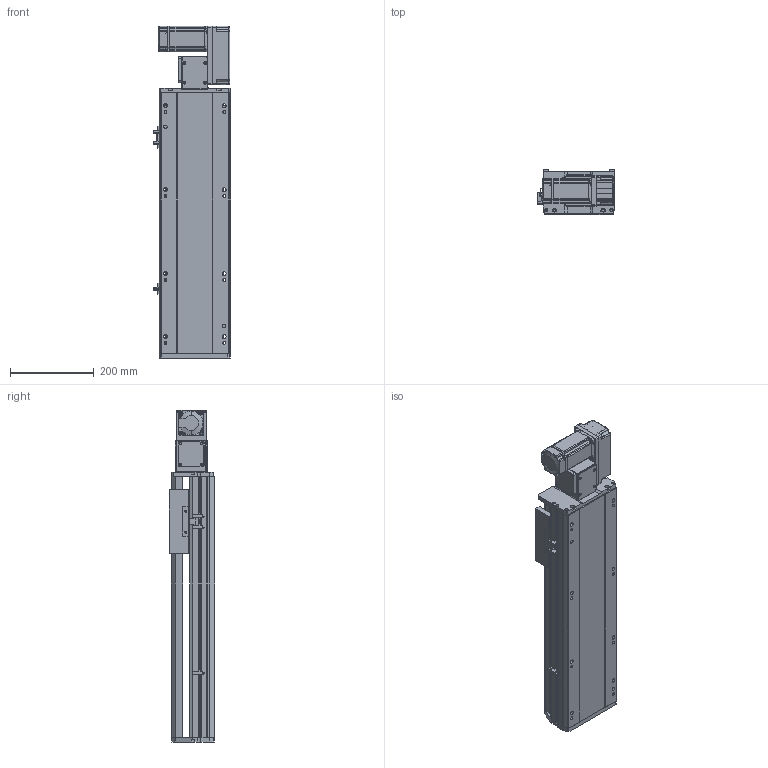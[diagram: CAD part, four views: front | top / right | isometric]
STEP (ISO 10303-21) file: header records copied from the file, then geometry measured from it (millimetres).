
FILE_DESCRIPTION (( 'STEP AP214' ), '1' );
FILE_NAME ('RTB17S-XX-350-R-M40-C4.STEP', '2025-12-11T07:32:58', ( '' ), ( '' ), 'SwSTEP 2.0', 'SolidWorks 2018', '' );
FILE_SCHEMA (( 'AUTOMOTIVE_DESIGN' ));
Length unit declared in the file: millimetre
Products named in the file (14): RTB14-L-017P^RTB17S-R-々湍釱蚾饜-400W_RTB17S-XX-XX-R-M40-C4; RTB14-L-018P^RTB17S-R-々湍釱蚾饜-400W_RTB17S-XX-XX-R-M40-C4; 400W侜督萇儂^RTB17S-XX-XX-R-M40-C4; RTB17S-L-014-T20--々湍釱^RTB17S-R-々湍釱蚾饜-400W_RTB17S-XX-XX-R-M40-C4; RTB14-L-008-M20--萇儂啣^RTB17S-R-々湍釱蚾饜-400W_RTB17S-XX-XX-R-M40-C4; RTB17S-R-々湍釱蚾饜-400W^RTB17S-XX-XX-R-M40-C4; RTB17S-L-004佪裝蹟譫蟀諉釱^RTB17S-XX-XX-R-M40-C4; RTB14-L-005P--轴承塑胶压盖^RTB17S-R-皮带座装配-400W_RTB17S-XX-XX-R-M40-C4; RTB17S-L-001耜醱啣^RTB17S-XX-XX-R-M40-C4; RTB17S-L-007奻裔^RTB17S-XX-XX-R-M40-C4; OMRON EE-SX672 传感器^RTB17S-XX-XX-R-M40-C4; RTB17-R-011菁釱^RTB17S-XX-XX-R-M40-C4; RTB17S-XX-350-R-M40-C4; RTH13-BL-012覜茼え俋离^RTB17S-XX-XX-R-M40-C4
Assembly tree (16 placements, depth 3):
  RTB17S-XX-350-R-M40-C4
    RTB17-R-011菁釱^RTB17S-XX-XX-R-M40-C4
    RTB17S-L-007奻裔^RTB17S-XX-XX-R-M40-C4
    OMRON EE-SX672 传感器^RTB17S-XX-XX-R-M40-C4  x3
    RTB17S-L-001耜醱啣^RTB17S-XX-XX-R-M40-C4
    400W侜督萇儂^RTB17S-XX-XX-R-M40-C4
    RTB17S-L-004佪裝蹟譫蟀諉釱^RTB17S-XX-XX-R-M40-C4
    RTH13-BL-012覜茼え俋离^RTB17S-XX-XX-R-M40-C4
    RTB17S-R-々湍釱蚾饜-400W^RTB17S-XX-XX-R-M40-C4
      RTB17S-L-014-T20--々湍釱^RTB17S-R-々湍釱蚾饜-400W_RTB17S-XX-XX-R-M40-C4
      RTB14-L-005P--轴承塑胶压盖^RTB17S-R-皮带座装配-400W_RTB17S-XX-XX-R-M40-C4
      RTB14-L-008-M20--萇儂啣^RTB17S-R-々湍釱蚾饜-400W_RTB17S-XX-XX-R-M40-C4
      RTB14-L-017P^RTB17S-R-々湍釱蚾饜-400W_RTB17S-XX-XX-R-M40-C4  x2
      RTB14-L-018P^RTB17S-R-々湍釱蚾饜-400W_RTB17S-XX-XX-R-M40-C4
Bounding box: 183.5 x 108 x 791 mm (x, y, z)
Volume: 7073678.8 mm3; surface area: 920025.4 mm2
Topology: 15 solids, 15 shells, 2157 faces, 5925 edges, 3861 vertices
Faces by surface type: plane 1062, cylinder 647, bspline 301, cone 139, torus 8
Entity records: 60329 total; most frequent: CARTESIAN_POINT 16730, ORIENTED_EDGE 8694, DIRECTION 8126, EDGE_CURVE 4347, VERTEX_POINT 2849, AXIS2_PLACEMENT_3D 2779, LINE 2568, VECTOR 2568
